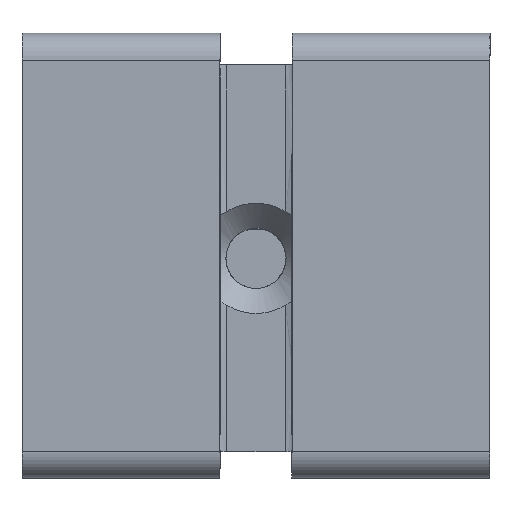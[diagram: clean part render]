
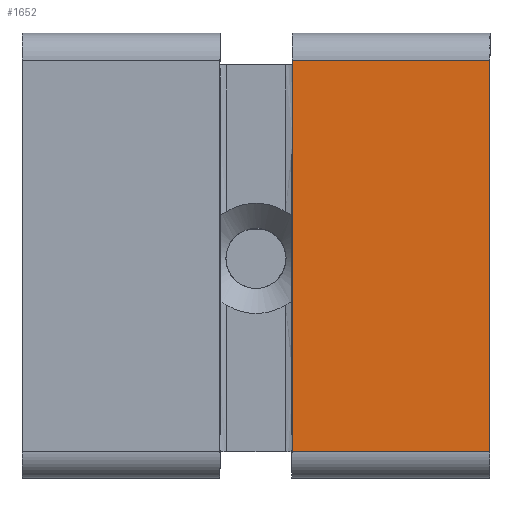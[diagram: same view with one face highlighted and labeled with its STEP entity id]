
A CAD part, top view. The second image highlights one B-rep face of the part: STEP entity #1652.
In plain terms, the highlighted free-form (B-spline) face has degree [1, 1] with [2, 2] control points.
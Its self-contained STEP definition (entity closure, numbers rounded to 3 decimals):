
#1592=CARTESIAN_POINT('',(11.,-21.75,-3.));
#1593=VERTEX_POINT('',#1592);
#1600=CARTESIAN_POINT('',(-11.,-21.75,-3.));
#1601=VERTEX_POINT('',#1600);
#1602=CARTESIAN_POINT('',(11.,-21.75,-3.));
#1603=CARTESIAN_POINT('',(-11.,-21.75,-3.));
#1604=B_SPLINE_CURVE_WITH_KNOTS('',1,(#1602,#1603),.POLYLINE_FORM.,.F.,.U.,(2,2),(0.,1.),.UNSPECIFIED.);
#1605=EDGE_CURVE('',#1593,#1601,#1604,.T.);
#1623=CARTESIAN_POINT('',(26.1,26.1,-3.));
#1624=CARTESIAN_POINT('',(-26.1,26.1,-3.));
#1625=CARTESIAN_POINT('',(26.1,-26.1,-3.));
#1626=CARTESIAN_POINT('',(-26.1,-26.1,-3.));
#1627=B_SPLINE_SURFACE_WITH_KNOTS('',1,1,((#1623,#1624),(#1625,#1626)),.PLANE_SURF.,.F.,.F.,.U.,(2,2),(2,2),(0.,1.),(0.,1.),.UNSPECIFIED.);
#1628=ORIENTED_EDGE('',*,*,#1605,.T.);
#1629=CARTESIAN_POINT('',(-11.,21.75,-3.));
#1630=VERTEX_POINT('',#1629);
#1631=CARTESIAN_POINT('',(-11.,-21.75,-3.));
#1632=CARTESIAN_POINT('',(-11.,0.,-3.));
#1633=CARTESIAN_POINT('',(-11.,21.75,-3.));
#1634=B_SPLINE_CURVE_WITH_KNOTS('',1,(#1631,#1632,#1633),.UNSPECIFIED.,.F.,.U.,(2,1,2),(0.,1.,2.),.UNSPECIFIED.);
#1635=EDGE_CURVE('',#1601,#1630,#1634,.T.);
#1636=ORIENTED_EDGE('',*,*,#1635,.T.);
#1637=CARTESIAN_POINT('',(11.,21.75,-3.));
#1638=VERTEX_POINT('',#1637);
#1639=CARTESIAN_POINT('',(11.,21.75,-3.));
#1640=CARTESIAN_POINT('',(-11.,21.75,-3.));
#1641=B_SPLINE_CURVE_WITH_KNOTS('',1,(#1639,#1640),.POLYLINE_FORM.,.F.,.U.,(2,2),(0.,1.),.UNSPECIFIED.);
#1642=EDGE_CURVE('',#1638,#1630,#1641,.T.);
#1643=ORIENTED_EDGE('',*,*,#1642,.F.);
#1644=CARTESIAN_POINT('',(11.,-21.75,-3.));
#1645=CARTESIAN_POINT('',(11.,0.,-3.));
#1646=CARTESIAN_POINT('',(11.,21.75,-3.));
#1647=B_SPLINE_CURVE_WITH_KNOTS('',1,(#1644,#1645,#1646),.UNSPECIFIED.,.F.,.U.,(2,1,2),(0.,1.,2.),.UNSPECIFIED.);
#1648=EDGE_CURVE('',#1593,#1638,#1647,.T.);
#1649=ORIENTED_EDGE('',*,*,#1648,.F.);
#1650=EDGE_LOOP('',(#1628,#1636,#1643,#1649));
#1651=FACE_OUTER_BOUND('',#1650,.T.);
#1652=ADVANCED_FACE('',(#1651),#1627,.T.);
